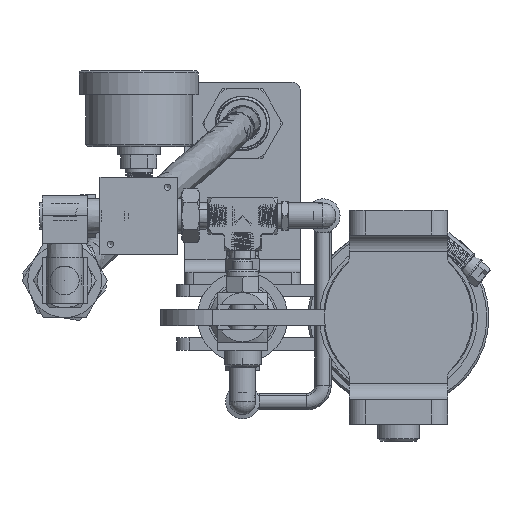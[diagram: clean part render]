
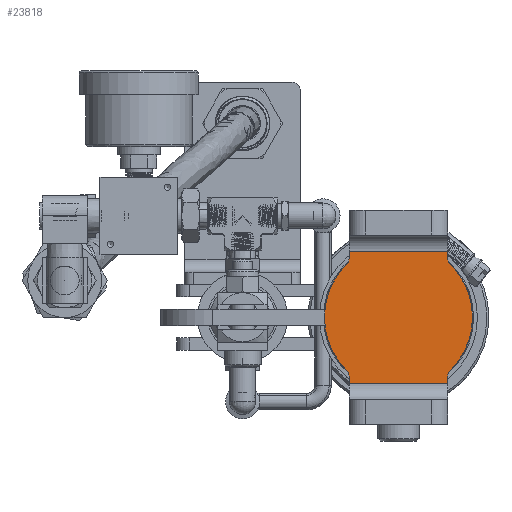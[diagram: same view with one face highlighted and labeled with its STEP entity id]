
A CAD part, front view. The second image highlights one B-rep face of the part: STEP entity #23818.
In plain terms, the highlighted planar face has unit normal (0, -1, 0).
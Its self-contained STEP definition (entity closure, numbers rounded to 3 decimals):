
#21668=CIRCLE('',#54514,3.175);
#21669=CIRCLE('',#54515,28.575);
#21670=CIRCLE('',#54516,3.175);
#21671=CIRCLE('',#54517,3.175);
#21672=CIRCLE('',#54518,28.575);
#21673=CIRCLE('',#54519,3.175);
#23818=ADVANCED_FACE('',(#26363),#25019,.T.);
#25019=PLANE('',#54520);
#26363=FACE_OUTER_BOUND('',#28857,.T.);
#28857=EDGE_LOOP('',(#40388,#40389,#40390,#40391,#40392,#40393,#40394,#40395,
#40396,#40397,#40398,#40399));
#30943=LINE('',#110131,#33034);
#30947=LINE('',#110140,#33038);
#30949=LINE('',#110150,#33040);
#30950=LINE('',#110152,#33041);
#30951=LINE('',#110159,#33042);
#30952=LINE('',#110161,#33043);
#33034=VECTOR('',#62091,1.);
#33038=VECTOR('',#62097,1.);
#33040=VECTOR('',#62107,1.);
#33041=VECTOR('',#62108,1.);
#33042=VECTOR('',#62115,1.);
#33043=VECTOR('',#62116,1.);
#40388=ORIENTED_EDGE('',*,*,#49440,.F.);
#40389=ORIENTED_EDGE('',*,*,#49446,.T.);
#40390=ORIENTED_EDGE('',*,*,#49447,.F.);
#40391=ORIENTED_EDGE('',*,*,#49448,.T.);
#40392=ORIENTED_EDGE('',*,*,#49449,.F.);
#40393=ORIENTED_EDGE('',*,*,#49450,.F.);
#40394=ORIENTED_EDGE('',*,*,#49444,.F.);
#40395=ORIENTED_EDGE('',*,*,#49451,.T.);
#40396=ORIENTED_EDGE('',*,*,#49452,.F.);
#40397=ORIENTED_EDGE('',*,*,#49453,.T.);
#40398=ORIENTED_EDGE('',*,*,#49454,.F.);
#40399=ORIENTED_EDGE('',*,*,#49455,.F.);
#45267=VERTEX_POINT('',#110130);
#45268=VERTEX_POINT('',#110132);
#45271=VERTEX_POINT('',#110139);
#45272=VERTEX_POINT('',#110141);
#45273=VERTEX_POINT('',#110145);
#45274=VERTEX_POINT('',#110147);
#45275=VERTEX_POINT('',#110149);
#45276=VERTEX_POINT('',#110151);
#45277=VERTEX_POINT('',#110154);
#45278=VERTEX_POINT('',#110156);
#45279=VERTEX_POINT('',#110158);
#45280=VERTEX_POINT('',#110160);
#49440=EDGE_CURVE('',#45267,#45268,#30943,.T.);
#49444=EDGE_CURVE('',#45271,#45272,#30947,.T.);
#49446=EDGE_CURVE('',#45267,#45273,#21668,.T.);
#49447=EDGE_CURVE('',#45274,#45273,#21669,.T.);
#49448=EDGE_CURVE('',#45274,#45275,#21670,.T.);
#49449=EDGE_CURVE('',#45276,#45275,#30949,.T.);
#49450=EDGE_CURVE('',#45272,#45276,#30950,.T.);
#49451=EDGE_CURVE('',#45271,#45277,#21671,.T.);
#49452=EDGE_CURVE('',#45278,#45277,#21672,.T.);
#49453=EDGE_CURVE('',#45278,#45279,#21673,.T.);
#49454=EDGE_CURVE('',#45280,#45279,#30951,.T.);
#49455=EDGE_CURVE('',#45268,#45280,#30952,.T.);
#54514=AXIS2_PLACEMENT_3D('',#110144,#62101,#62102);
#54515=AXIS2_PLACEMENT_3D('',#110146,#62103,#62104);
#54516=AXIS2_PLACEMENT_3D('',#110148,#62105,#62106);
#54517=AXIS2_PLACEMENT_3D('',#110153,#62109,#62110);
#54518=AXIS2_PLACEMENT_3D('',#110155,#62111,#62112);
#54519=AXIS2_PLACEMENT_3D('',#110157,#62113,#62114);
#54520=AXIS2_PLACEMENT_3D('',#110162,#62117,#62118);
#62091=DIRECTION('',(0.,0.,-1.));
#62097=DIRECTION('',(0.,0.,1.));
#62101=DIRECTION('',(0.,1.,0.));
#62102=DIRECTION('',(1.,0.,0.));
#62103=DIRECTION('',(0.,1.,0.));
#62104=DIRECTION('',(1.,0.,0.));
#62105=DIRECTION('',(0.,1.,0.));
#62106=DIRECTION('',(1.,0.,0.));
#62107=DIRECTION('',(0.,0.,-1.));
#62108=DIRECTION('',(1.,0.,0.));
#62109=DIRECTION('',(0.,1.,0.));
#62110=DIRECTION('',(1.,0.,0.));
#62111=DIRECTION('',(0.,1.,0.));
#62112=DIRECTION('',(1.,0.,0.));
#62113=DIRECTION('',(0.,1.,0.));
#62114=DIRECTION('',(1.,0.,0.));
#62115=DIRECTION('',(0.,0.,1.));
#62116=DIRECTION('',(-1.,0.,0.));
#62117=DIRECTION('',(0.,-1.,0.));
#62118=DIRECTION('',(1.,0.,0.));
#110130=CARTESIAN_POINT('',(19.05,-179.362,-22.674));
#110131=CARTESIAN_POINT('',(19.05,-179.362,-31.75));
#110132=CARTESIAN_POINT('',(19.05,-179.362,-25.4));
#110139=CARTESIAN_POINT('',(-19.05,-179.362,22.674));
#110140=CARTESIAN_POINT('',(-19.05,-179.362,-31.75));
#110141=CARTESIAN_POINT('',(-19.05,-179.362,25.4));
#110144=CARTESIAN_POINT('',(22.225,-179.362,-22.674));
#110145=CARTESIAN_POINT('',(20.003,-179.362,-20.407));
#110146=CARTESIAN_POINT('',(0.,-179.362,0.));
#110147=CARTESIAN_POINT('',(20.003,-179.362,20.407));
#110148=CARTESIAN_POINT('',(22.225,-179.362,22.674));
#110149=CARTESIAN_POINT('',(19.05,-179.362,22.674));
#110150=CARTESIAN_POINT('',(19.05,-179.362,-31.75));
#110151=CARTESIAN_POINT('',(19.05,-179.362,25.4));
#110152=CARTESIAN_POINT('',(-19.05,-179.362,25.4));
#110153=CARTESIAN_POINT('',(-22.225,-179.362,22.674));
#110154=CARTESIAN_POINT('',(-20.003,-179.362,20.407));
#110155=CARTESIAN_POINT('',(0.,-179.362,0.));
#110156=CARTESIAN_POINT('',(-20.003,-179.362,-20.407));
#110157=CARTESIAN_POINT('',(-22.225,-179.362,-22.674));
#110158=CARTESIAN_POINT('',(-19.05,-179.362,-22.674));
#110159=CARTESIAN_POINT('',(-19.05,-179.362,-31.75));
#110160=CARTESIAN_POINT('',(-19.05,-179.362,-25.4));
#110161=CARTESIAN_POINT('',(19.05,-179.362,-25.4));
#110162=CARTESIAN_POINT('',(0.,-179.362,0.));
